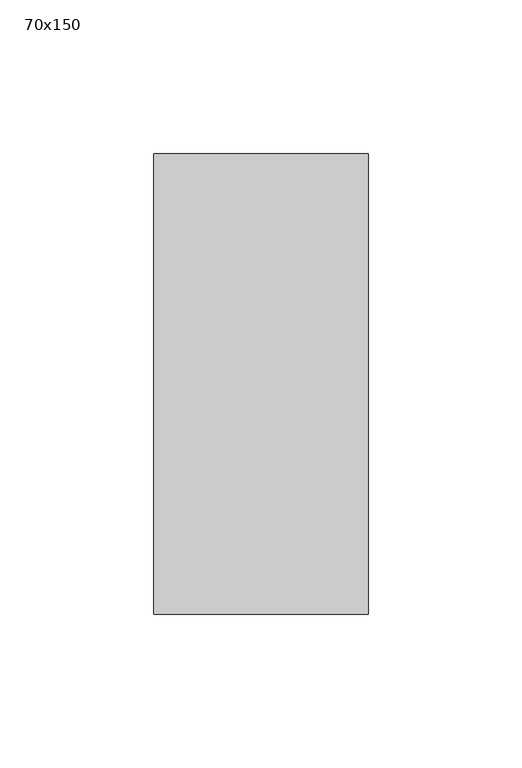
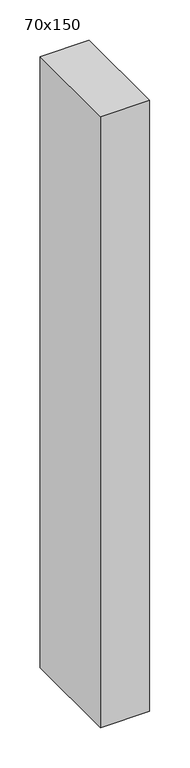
"""IFC4 building model written with IfcOpenShell, lengths in millimetres: member geometry, 長方形のマリオン : 70x150."""

from ifc_helpers import new_model, si_unit, frame, origin, place, context, project, spatial, polyline, outline, extrude, source, transform, mapped, element, save


def member_70x150_8bab1bdf(model_context):
    return source(origin(), model_context, "Body", "SweptSolid", [
        extrude(outline(polyline([(35.0, 75.0), (35.0, -75.0), (-35.0, -75.0), (-35.0, 75.0), (35.0, 75.0)])), frame((0.0, 0.0, -925.0), z_axis=(0.0, 0.0, 1.0), x_axis=(1.0, 0.0, 0.0)), (0.0, 0.0, 1.0), 925.0),
    ])


if __name__ == "__main__":
    model = new_model("IFC4")
    model_context = context("Model", 3, world=origin())
    ifc_project = project(units=[si_unit("LENGTHUNIT", "METRE", prefix="MILLI")], contexts=[model_context])
    site = spatial("IfcSite", under=ifc_project)
    building = spatial("IfcBuilding", under=site)
    placement = place(None, origin())
    member_70x150_shape = member_70x150_8bab1bdf(model_context)
    element("IfcMember", 1, ObjectType="長方形のマリオン : 70x150", at=placement, inside=building, context=model_context, shape_type="MappedRepresentation", body=[
        mapped(member_70x150_shape, transform((0.0, 0.0, 0.0), x_axis=(1.0, 0.0, 0.0), y_axis=(0.0, 1.0, 0.0), z_axis=(0.0, 0.0, 1.0))),
    ])
    save(model, "model.ifc")
